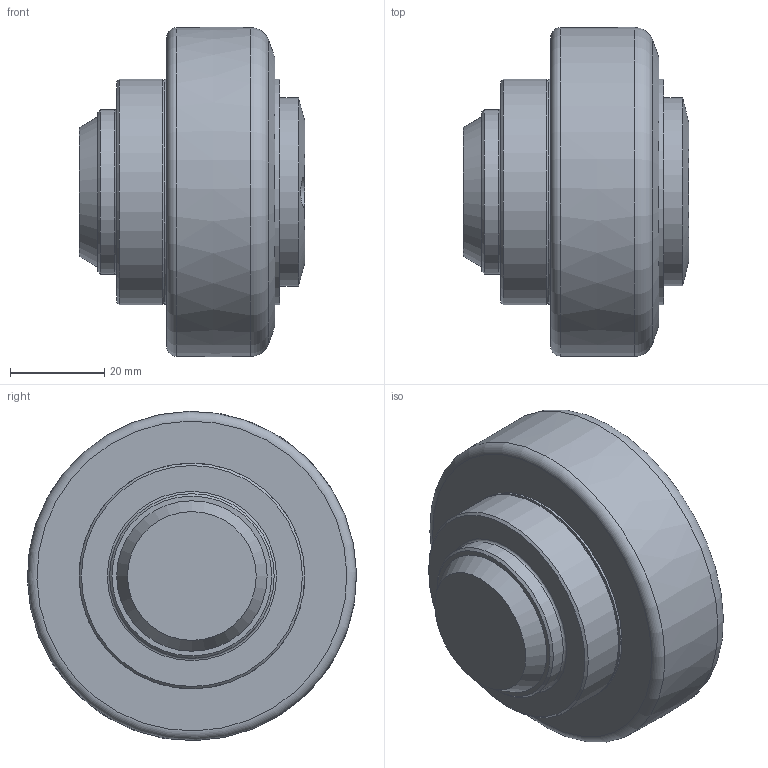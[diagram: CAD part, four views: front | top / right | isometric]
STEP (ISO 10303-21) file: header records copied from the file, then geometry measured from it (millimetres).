
FILE_DESCRIPTION((''),'2;1');
FILE_NAME('K:\Daten\KOMPONENTEN 2D + 3D\Rollen\Tigerrollen\TR xxx.0360\TR 070.0360\ALFATEC_TR 070.0360.stp','2013-02-06T11:59:37',('Wenzelburger'),(''),'Autodesk Inventor 2012','Autodesk Inventor 2012','');
FILE_SCHEMA(('AUTOMOTIVE_DESIGN { 1 0 10303 214 1 1 1 1 }'));
Length unit declared in the file: millimetre
Products named in the file (1): TR 070.0360_Konturvereinfachung_1
Bounding box: 48 x 70.04 x 70.09 mm (x, y, z)
Volume: 120411.6 mm3; surface area: 15184.8 mm2
Topology: 1 solids, 1 shells, 55 faces, 118 edges, 75 vertices
Faces by surface type: plane 26, cylinder 13, cone 10, torus 5, bspline 1
Full cylindrical faces by diameter (mm): 3 x2, 3.4 x2, 6 x2, 6.5 x2, 35 x1, 40 x1, 48 x3
Entity records: 1375 total; most frequent: CARTESIAN_POINT 260, DIRECTION 228, ORIENTED_EDGE 158, AXIS2_PLACEMENT_3D 96, EDGE_LOOP 94, EDGE_CURVE 79, VERTEX_POINT 65, FACE_OUTER_BOUND 55
